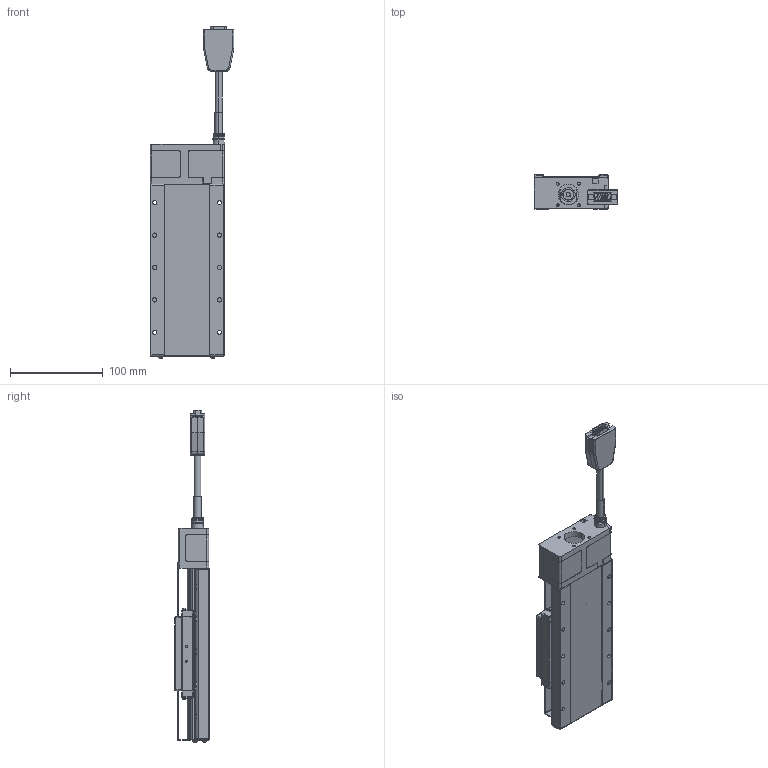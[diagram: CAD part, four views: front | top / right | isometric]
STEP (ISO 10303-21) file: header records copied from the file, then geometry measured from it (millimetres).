
FILE_DESCRIPTION (( 'STEP AP203' ), '1' );
FILE_NAME ('CXC8075-S2?N(µL°¨¹F).S', '2024-01-05T05:26:48', ( '' ), ( '' ), 'SwSTEP 2.0', 'SolidWorks 2019', '' );
FILE_SCHEMA (( 'CONFIG_CONTROL_DESIGN' ));
Length unit declared in the file: millimetre
Products named in the file (8): Group1^CXC8075-S2?N(28框無馬達)_defeature_GMT; CXC80-102; CXC8075-S2?N(無馬達); SG02B005_SCM435(化鎳); CXC8075-S2OPAN-303; SD03B006_SD03B006-SCM435(化鎳); Group2^CXC8075-S2?N(28框無馬達)_defeature_GMT; SC04B006_SCM435(化鎳)
Assembly tree (15 placements, depth 2):
  CXC8075-S2?N(無馬達)
    Group1^CXC8075-S2?N(28框無馬達)_defeature_GMT
    Group2^CXC8075-S2?N(28框無馬達)_defeature_GMT
    CXC8075-S2OPAN-303
    CXC80-102  x2
    SG02B005_SCM435(化鎳)  x2
    SC04B006_SCM435(化鎳)  x4
    SD03B006_SD03B006-SCM435(化鎳)  x4
Bounding box: 90.5 x 37 x 358.25 mm (x, y, z)
Volume: 84521.1 mm3; surface area: 163591.1 mm2
Topology: 38 solids, 42 shells, 4370 faces, 10968 edges, 6646 vertices
Faces by surface type: plane 1561, cylinder 1374, cone 633, torus 318, bspline 280, sphere 204
Entity records: 134288 total; most frequent: CARTESIAN_POINT 35515, DIRECTION 21297, ORIENTED_EDGE 20230, EDGE_CURVE 10115, AXIS2_PLACEMENT_3D 8173, VERTEX_POINT 6227, VECTOR 4951, LINE 4951
